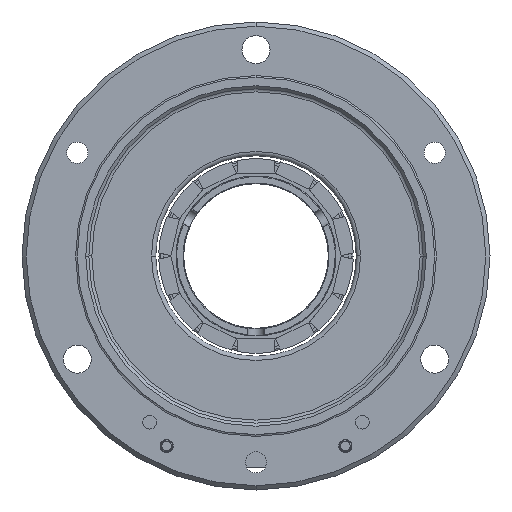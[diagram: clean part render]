
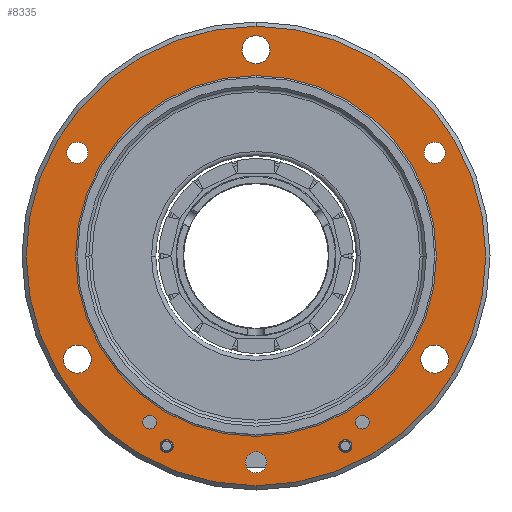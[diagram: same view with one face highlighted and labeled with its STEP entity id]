
A CAD part, left-side view. The second image highlights one B-rep face of the part: STEP entity #8335.
In plain terms, the highlighted planar face has unit normal (-1, 0, 0) as drawn and (0, 1, 0) by its records, which use the part's own axes.
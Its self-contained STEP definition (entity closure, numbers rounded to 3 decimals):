
#1494=CARTESIAN_POINT('',(-24.25,4.,0.));
#1495=DIRECTION('',(0.,-1.,0.));
#1496=DIRECTION('',(-1.,0.,0.));
#1497=AXIS2_PLACEMENT_3D('',#1494,#1495,#1496);
#1502=CARTESIAN_POINT('',(-24.25,4.,0.));
#1503=DIRECTION('',(0.,-1.,0.));
#1504=DIRECTION('',(1.,0.,0.));
#1505=AXIS2_PLACEMENT_3D('',#1502,#1503,#1504);
#1510=CARTESIAN_POINT('',(12.125,4.,21.001));
#1511=DIRECTION('',(0.,-1.,0.));
#1512=DIRECTION('',(0.5,0.,0.866));
#1513=AXIS2_PLACEMENT_3D('',#1510,#1511,#1512);
#1518=CARTESIAN_POINT('',(12.125,4.,21.001));
#1519=DIRECTION('',(0.,-1.,0.));
#1520=DIRECTION('',(-0.5,0.,-0.866));
#1521=AXIS2_PLACEMENT_3D('',#1518,#1519,#1520);
#1526=CARTESIAN_POINT('',(12.125,4.,-21.001));
#1527=DIRECTION('',(0.,-1.,0.));
#1528=DIRECTION('',(0.5,0.,-0.866));
#1529=AXIS2_PLACEMENT_3D('',#1526,#1527,#1528);
#1534=CARTESIAN_POINT('',(12.125,4.,-21.001));
#1535=DIRECTION('',(0.,-1.,0.));
#1536=DIRECTION('',(-0.5,0.,0.866));
#1537=AXIS2_PLACEMENT_3D('',#1534,#1535,#1536);
#1542=CARTESIAN_POINT('',(-12.125,4.,21.001));
#1543=DIRECTION('',(0.,1.,0.));
#1544=DIRECTION('',(-1.,0.,0.));
#1545=AXIS2_PLACEMENT_3D('',#1542,#1543,#1544);
#1550=CARTESIAN_POINT('',(-12.125,4.,21.001));
#1551=DIRECTION('',(0.,1.,0.));
#1552=DIRECTION('',(1.,0.,0.));
#1553=AXIS2_PLACEMENT_3D('',#1550,#1551,#1552);
#1558=CARTESIAN_POINT('',(24.25,4.,0.));
#1559=DIRECTION('',(0.,1.,0.));
#1560=DIRECTION('',(0.5,0.,0.866));
#1561=AXIS2_PLACEMENT_3D('',#1558,#1559,#1560);
#1566=CARTESIAN_POINT('',(24.25,4.,0.));
#1567=DIRECTION('',(0.,1.,0.));
#1568=DIRECTION('',(-0.5,0.,-0.866));
#1569=AXIS2_PLACEMENT_3D('',#1566,#1567,#1568);
#1574=CARTESIAN_POINT('',(-12.125,4.,-21.001));
#1575=DIRECTION('',(0.,1.,0.));
#1576=DIRECTION('',(0.5,0.,-0.866));
#1577=AXIS2_PLACEMENT_3D('',#1574,#1575,#1576);
#1582=CARTESIAN_POINT('',(-12.125,4.,-21.001));
#1583=DIRECTION('',(0.,1.,0.));
#1584=DIRECTION('',(-0.5,0.,0.866));
#1585=AXIS2_PLACEMENT_3D('',#1582,#1583,#1584);
#1590=CARTESIAN_POINT('',(0.,4.,0.));
#1591=DIRECTION('',(0.,-1.,0.));
#1592=DIRECTION('',(1.,0.,0.));
#1593=AXIS2_PLACEMENT_3D('',#1590,#1591,#1592);
#1598=CARTESIAN_POINT('',(0.,4.,0.));
#1599=DIRECTION('',(0.,-1.,0.));
#1600=DIRECTION('',(-1.,0.,0.));
#1601=AXIS2_PLACEMENT_3D('',#1598,#1599,#1600);
#1606=CARTESIAN_POINT('',(-22.34,4.,-10.5));
#1607=DIRECTION('',(0.,-1.,0.));
#1608=DIRECTION('',(-1.,0.,0.));
#1609=AXIS2_PLACEMENT_3D('',#1606,#1607,#1608);
#1614=CARTESIAN_POINT('',(-22.34,4.,-10.5));
#1615=DIRECTION('',(0.,-1.,0.));
#1616=DIRECTION('',(1.,0.,0.));
#1617=AXIS2_PLACEMENT_3D('',#1614,#1615,#1616);
#1622=CARTESIAN_POINT('',(-22.34,4.,10.5));
#1623=DIRECTION('',(0.,1.,0.));
#1624=DIRECTION('',(-1.,0.,0.));
#1625=AXIS2_PLACEMENT_3D('',#1622,#1623,#1624);
#1630=CARTESIAN_POINT('',(-22.34,4.,10.5));
#1631=DIRECTION('',(0.,1.,0.));
#1632=DIRECTION('',(1.,0.,0.));
#1633=AXIS2_PLACEMENT_3D('',#1630,#1631,#1632);
#1638=CARTESIAN_POINT('',(-19.54,4.,-12.5));
#1639=DIRECTION('',(0.,-1.,0.));
#1640=DIRECTION('',(-1.,0.,0.));
#1641=AXIS2_PLACEMENT_3D('',#1638,#1639,#1640);
#1646=CARTESIAN_POINT('',(-19.54,4.,-12.5));
#1647=DIRECTION('',(0.,-1.,0.));
#1648=DIRECTION('',(1.,0.,0.));
#1649=AXIS2_PLACEMENT_3D('',#1646,#1647,#1648);
#1654=CARTESIAN_POINT('',(-19.54,4.,12.5));
#1655=DIRECTION('',(0.,-1.,0.));
#1656=DIRECTION('',(-1.,0.,0.));
#1657=AXIS2_PLACEMENT_3D('',#1654,#1655,#1656);
#1662=CARTESIAN_POINT('',(-19.54,4.,12.5));
#1663=DIRECTION('',(0.,-1.,0.));
#1664=DIRECTION('',(1.,0.,0.));
#1665=AXIS2_PLACEMENT_3D('',#1662,#1663,#1664);
#1670=CARTESIAN_POINT('',(0.,4.,0.));
#1671=DIRECTION('',(0.,1.,0.));
#1672=DIRECTION('',(-1.,0.,0.));
#1673=AXIS2_PLACEMENT_3D('',#1670,#1671,#1672);
#1678=CARTESIAN_POINT('',(0.,4.,0.));
#1679=DIRECTION('',(0.,1.,0.));
#1680=DIRECTION('',(1.,0.,0.));
#1681=AXIS2_PLACEMENT_3D('',#1678,#1679,#1680);
#1928=CARTESIAN_POINT('',(-25.5,4.,0.));
#1929=CARTESIAN_POINT('',(-23.,4.,0.));
#1930=VERTEX_POINT('',#1928);
#1931=VERTEX_POINT('',#1929);
#1932=CARTESIAN_POINT('',(12.75,4.,22.084));
#1934=VERTEX_POINT('',#1932);
#1936=CARTESIAN_POINT('',(11.5,4.,19.919));
#1938=VERTEX_POINT('',#1936);
#1940=CARTESIAN_POINT('',(12.75,4.,-22.084));
#1942=VERTEX_POINT('',#1940);
#1944=CARTESIAN_POINT('',(11.5,4.,-19.919));
#1946=VERTEX_POINT('',#1944);
#1952=CARTESIAN_POINT('',(-13.775,4.,21.001));
#1953=CARTESIAN_POINT('',(-10.475,4.,21.001));
#1954=VERTEX_POINT('',#1952);
#1955=VERTEX_POINT('',#1953);
#1984=CARTESIAN_POINT('',(27.,4.,0.));
#1985=CARTESIAN_POINT('',(-27.,4.,0.));
#1986=VERTEX_POINT('',#1984);
#1987=VERTEX_POINT('',#1985);
#2006=CARTESIAN_POINT('',(-23.115,4.,-10.5));
#2007=VERTEX_POINT('',#2006);
#2008=CARTESIAN_POINT('',(-21.565,4.,-10.5));
#2009=VERTEX_POINT('',#2008);
#2014=CARTESIAN_POINT('',(-23.115,4.,10.5));
#2015=VERTEX_POINT('',#2014);
#2016=CARTESIAN_POINT('',(-21.565,4.,10.5));
#2017=VERTEX_POINT('',#2016);
#2022=CARTESIAN_POINT('',(-20.34,4.,-12.5));
#2023=CARTESIAN_POINT('',(-18.74,4.,-12.5));
#2024=VERTEX_POINT('',#2022);
#2025=VERTEX_POINT('',#2023);
#2030=CARTESIAN_POINT('',(-20.34,4.,12.5));
#2031=CARTESIAN_POINT('',(-18.74,4.,12.5));
#2032=VERTEX_POINT('',#2030);
#2033=VERTEX_POINT('',#2031);
#2075=CARTESIAN_POINT('',(25.075,4.,1.429));
#2076=CARTESIAN_POINT('',(23.425,4.,-1.429));
#2077=VERTEX_POINT('',#2075);
#2078=VERTEX_POINT('',#2076);
#2083=CARTESIAN_POINT('',(-11.3,4.,-22.43));
#2084=CARTESIAN_POINT('',(-12.95,4.,-19.572));
#2085=VERTEX_POINT('',#2083);
#2086=VERTEX_POINT('',#2084);
#2087=CARTESIAN_POINT('',(-21.2,4.,0.));
#2088=CARTESIAN_POINT('',(21.2,4.,0.));
#2089=VERTEX_POINT('',#2087);
#2090=VERTEX_POINT('',#2088);
#8259=CARTESIAN_POINT('',(0.,4.,0.));
#8260=DIRECTION('',(0.,-1.,0.));
#8261=DIRECTION('',(-1.,0.,0.));
#8262=AXIS2_PLACEMENT_3D('',#8259,#8260,#8261);
#8263=PLANE('',#8262);
#8265=ORIENTED_EDGE('',*,*,#8264,.T.);
#8267=ORIENTED_EDGE('',*,*,#8266,.T.);
#8268=EDGE_LOOP('',(#8265,#8267));
#8269=FACE_OUTER_BOUND('',#8268,.F.);
#8271=ORIENTED_EDGE('',*,*,#8270,.F.);
#8273=ORIENTED_EDGE('',*,*,#8272,.F.);
#8274=EDGE_LOOP('',(#8271,#8273));
#8275=FACE_BOUND('',#8274,.F.);
#8277=ORIENTED_EDGE('',*,*,#8276,.F.);
#8279=ORIENTED_EDGE('',*,*,#8278,.F.);
#8280=EDGE_LOOP('',(#8277,#8279));
#8281=FACE_BOUND('',#8280,.F.);
#8283=ORIENTED_EDGE('',*,*,#8282,.T.);
#8285=ORIENTED_EDGE('',*,*,#8284,.T.);
#8286=EDGE_LOOP('',(#8283,#8285));
#8287=FACE_BOUND('',#8286,.F.);
#8289=ORIENTED_EDGE('',*,*,#8288,.T.);
#8291=ORIENTED_EDGE('',*,*,#8290,.T.);
#8292=EDGE_LOOP('',(#8289,#8291));
#8293=FACE_BOUND('',#8292,.F.);
#8295=ORIENTED_EDGE('',*,*,#8294,.T.);
#8297=ORIENTED_EDGE('',*,*,#8296,.T.);
#8298=EDGE_LOOP('',(#8295,#8297));
#8299=FACE_BOUND('',#8298,.F.);
#8301=ORIENTED_EDGE('',*,*,#8300,.F.);
#8303=ORIENTED_EDGE('',*,*,#8302,.F.);
#8304=EDGE_LOOP('',(#8301,#8303));
#8305=FACE_BOUND('',#8304,.F.);
#8307=ORIENTED_EDGE('',*,*,#8306,.F.);
#8309=ORIENTED_EDGE('',*,*,#8308,.F.);
#8310=EDGE_LOOP('',(#8307,#8309));
#8311=FACE_BOUND('',#8310,.F.);
#8313=ORIENTED_EDGE('',*,*,#8312,.T.);
#8315=ORIENTED_EDGE('',*,*,#8314,.T.);
#8316=EDGE_LOOP('',(#8313,#8315));
#8317=FACE_BOUND('',#8316,.F.);
#8319=ORIENTED_EDGE('',*,*,#8318,.F.);
#8321=ORIENTED_EDGE('',*,*,#8320,.F.);
#8322=EDGE_LOOP('',(#8319,#8321));
#8323=FACE_BOUND('',#8322,.F.);
#8325=ORIENTED_EDGE('',*,*,#8324,.F.);
#8327=ORIENTED_EDGE('',*,*,#8326,.F.);
#8328=EDGE_LOOP('',(#8325,#8327));
#8329=FACE_BOUND('',#8328,.F.);
#8330=ORIENTED_EDGE('',*,*,#8249,.T.);
#8332=ORIENTED_EDGE('',*,*,#8331,.T.);
#8333=EDGE_LOOP('',(#8330,#8332));
#8334=FACE_BOUND('',#8333,.F.);
#8335=ADVANCED_FACE('',(#8269,#8275,#8281,#8287,#8293,#8299,#8305,#8311,#8317,
#8323,#8329,#8334),#8263,.F.);
#1498=CIRCLE('',#1497,1.25);
#1506=CIRCLE('',#1505,1.25);
#1514=CIRCLE('',#1513,1.25);
#1522=CIRCLE('',#1521,1.25);
#1530=CIRCLE('',#1529,1.25);
#1538=CIRCLE('',#1537,1.25);
#1546=CIRCLE('',#1545,1.65);
#1554=CIRCLE('',#1553,1.65);
#1562=CIRCLE('',#1561,1.65);
#1570=CIRCLE('',#1569,1.65);
#1578=CIRCLE('',#1577,1.65);
#1586=CIRCLE('',#1585,1.65);
#1594=CIRCLE('',#1593,27.);
#1602=CIRCLE('',#1601,27.);
#1610=CIRCLE('',#1609,0.775);
#1618=CIRCLE('',#1617,0.775);
#1626=CIRCLE('',#1625,0.775);
#1634=CIRCLE('',#1633,0.775);
#1642=CIRCLE('',#1641,0.8);
#1650=CIRCLE('',#1649,0.8);
#1658=CIRCLE('',#1657,0.8);
#1666=CIRCLE('',#1665,0.8);
#1674=CIRCLE('',#1673,21.2);
#1682=CIRCLE('',#1681,21.2);
#8249=EDGE_CURVE('',#2089,#2090,#1674,.T.);
#8264=EDGE_CURVE('',#1986,#1987,#1594,.T.);
#8266=EDGE_CURVE('',#1987,#1986,#1602,.T.);
#8270=EDGE_CURVE('',#1934,#1938,#1514,.T.);
#8272=EDGE_CURVE('',#1938,#1934,#1522,.T.);
#8276=EDGE_CURVE('',#1942,#1946,#1530,.T.);
#8278=EDGE_CURVE('',#1946,#1942,#1538,.T.);
#8282=EDGE_CURVE('',#1954,#1955,#1546,.T.);
#8284=EDGE_CURVE('',#1955,#1954,#1554,.T.);
#8288=EDGE_CURVE('',#2077,#2078,#1562,.T.);
#8290=EDGE_CURVE('',#2078,#2077,#1570,.T.);
#8294=EDGE_CURVE('',#2085,#2086,#1578,.T.);
#8296=EDGE_CURVE('',#2086,#2085,#1586,.T.);
#8300=EDGE_CURVE('',#1930,#1931,#1498,.T.);
#8302=EDGE_CURVE('',#1931,#1930,#1506,.T.);
#8306=EDGE_CURVE('',#2007,#2009,#1610,.T.);
#8308=EDGE_CURVE('',#2009,#2007,#1618,.T.);
#8312=EDGE_CURVE('',#2015,#2017,#1626,.T.);
#8314=EDGE_CURVE('',#2017,#2015,#1634,.T.);
#8318=EDGE_CURVE('',#2024,#2025,#1642,.T.);
#8320=EDGE_CURVE('',#2025,#2024,#1650,.T.);
#8324=EDGE_CURVE('',#2032,#2033,#1658,.T.);
#8326=EDGE_CURVE('',#2033,#2032,#1666,.T.);
#8331=EDGE_CURVE('',#2090,#2089,#1682,.T.);
